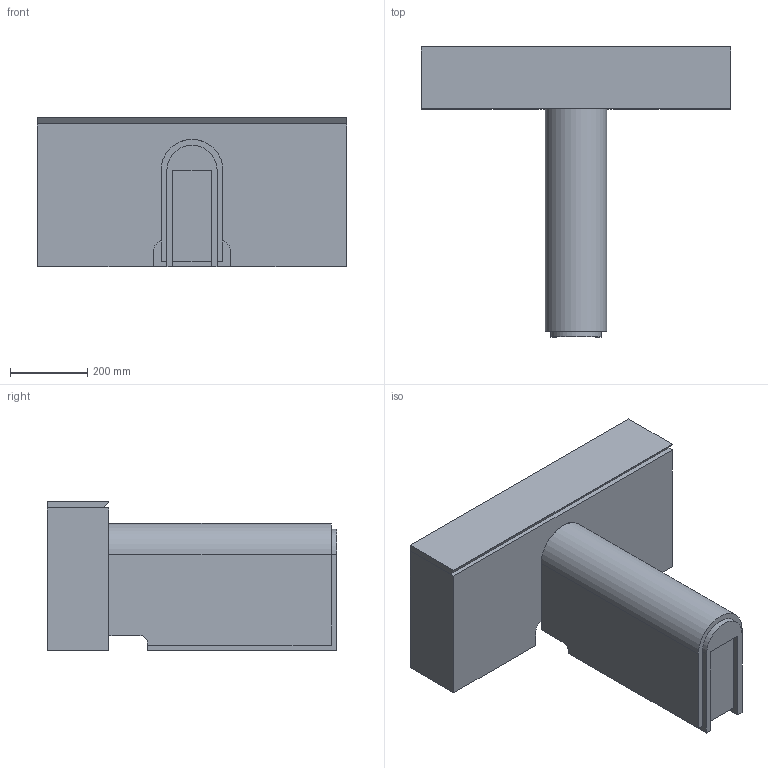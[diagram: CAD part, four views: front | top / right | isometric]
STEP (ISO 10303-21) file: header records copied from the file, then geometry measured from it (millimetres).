
FILE_DESCRIPTION (( 'STEP AP203' ), '1' );
FILE_NAME ('MBCH80.STEP', '2023-03-31T08:47:45', ( '' ), ( '' ), 'SwSTEP 2.0', 'SolidWorks 2023', '' );
FILE_SCHEMA (( 'CONFIG_CONTROL_DESIGN' ));
Length unit declared in the file: millimetre
Products named in the file (4): MBCH80; CHARLOTTE COLONNA; CHARLOTTE MENSOLA 80; CHARLOTTE CASSETTO FORO MENSOLA 80
Assembly tree (3 placements, depth 2):
  MBCH80
    CHARLOTTE COLONNA
    CHARLOTTE MENSOLA 80
    CHARLOTTE CASSETTO FORO MENSOLA 80
Bounding box: 800 x 750 x 388 mm (x, y, z)
Volume: 26634553.4 mm3; surface area: 3334657.8 mm2
Topology: 3 solids, 3 shells, 89 faces, 249 edges, 166 vertices
Faces by surface type: plane 69, cylinder 20
Entity records: 3269 total; most frequent: CARTESIAN_POINT 510, ORIENTED_EDGE 498, DIRECTION 479, EDGE_CURVE 249, LINE 209, VECTOR 209, VERTEX_POINT 166, AXIS2_PLACEMENT_3D 135
